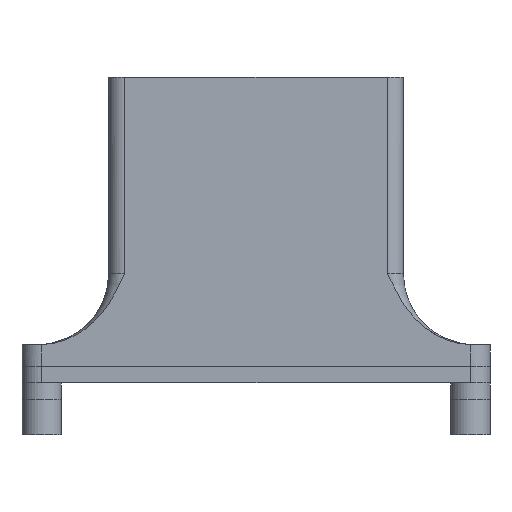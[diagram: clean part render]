
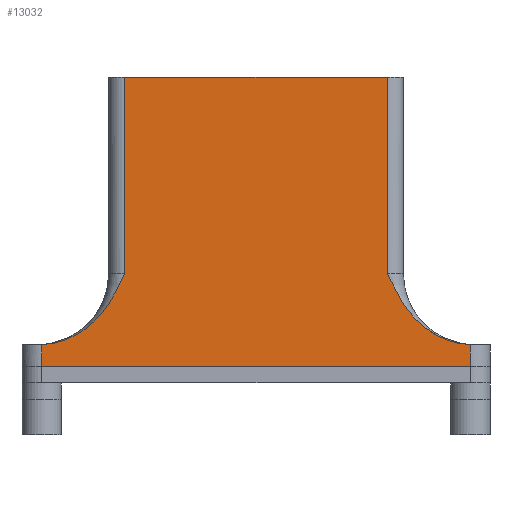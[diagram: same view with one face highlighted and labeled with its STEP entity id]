
A CAD part, front view. The second image highlights one B-rep face of the part: STEP entity #13032.
In plain terms, the highlighted planar face has unit normal (0, -1, 0).
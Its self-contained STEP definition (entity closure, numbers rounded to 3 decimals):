
#28=B_SPLINE_CURVE_WITH_KNOTS('',3,(#25805,#25806,#25807,#25808,#25809,
#25810,#25811,#25812,#25813,#25814,#25815,#25816,#25817,#25818,#25819,#25820),
 .UNSPECIFIED.,.F.,.F.,(4,2,2,2,2,2,2,4),(0.,0.579,0.869,
1.159,1.386,1.613,1.83,2.003),
 .UNSPECIFIED.);
#45=B_SPLINE_CURVE_WITH_KNOTS('',3,(#26018,#26019,#26020,#26021,#26022,
#26023,#26024,#26025,#26026,#26027,#26028,#26029,#26030,#26031,#26032,#26033),
 .UNSPECIFIED.,.F.,.F.,(4,2,2,2,2,2,2,4),(5.965,6.137,
6.355,6.582,6.809,7.099,7.389,
7.968),.UNSPECIFIED.);
#1900=PLANE('',#13497);
#2577=FACE_OUTER_BOUND('',#3306,.T.);
#3306=EDGE_LOOP('',(#12171,#12172,#12173,#12174,#12175,#12176,#12177,#12178));
#3993=LINE('',#25670,#4730);
#4007=LINE('',#25863,#4744);
#4019=LINE('',#26048,#4756);
#4033=LINE('',#26090,#4770);
#4048=LINE('',#26133,#4785);
#4058=LINE('',#26154,#4795);
#4730=VECTOR('',#14809,10.);
#4744=VECTOR('',#14877,10.);
#4756=VECTOR('',#14939,10.);
#4770=VECTOR('',#14985,10.);
#4785=VECTOR('',#15034,10.);
#4795=VECTOR('',#15060,10.);
#6170=VERTEX_POINT('',#25667);
#6171=VERTEX_POINT('',#25669);
#6193=VERTEX_POINT('',#25782);
#6198=VERTEX_POINT('',#25803);
#6229=VERTEX_POINT('',#26010);
#6230=VERTEX_POINT('',#26017);
#6242=VERTEX_POINT('',#26085);
#6254=VERTEX_POINT('',#26131);
#8105=EDGE_CURVE('',#6170,#6171,#3993,.T.);
#8139=EDGE_CURVE('',#6198,#6193,#28,.T.);
#8149=EDGE_CURVE('',#6171,#6198,#4007,.T.);
#8184=EDGE_CURVE('',#6230,#6229,#45,.F.);
#8189=EDGE_CURVE('',#6230,#6170,#4019,.T.);
#8211=EDGE_CURVE('',#6242,#6193,#4033,.T.);
#8233=EDGE_CURVE('',#6254,#6229,#4048,.T.);
#8244=EDGE_CURVE('',#6254,#6242,#4058,.T.);
#12171=ORIENTED_EDGE('',*,*,#8233,.F.);
#12172=ORIENTED_EDGE('',*,*,#8244,.T.);
#12173=ORIENTED_EDGE('',*,*,#8211,.T.);
#12174=ORIENTED_EDGE('',*,*,#8139,.F.);
#12175=ORIENTED_EDGE('',*,*,#8149,.F.);
#12176=ORIENTED_EDGE('',*,*,#8105,.F.);
#12177=ORIENTED_EDGE('',*,*,#8189,.F.);
#12178=ORIENTED_EDGE('',*,*,#8184,.T.);
#13032=ADVANCED_FACE('',(#2577),#1900,.T.);
#13497=AXIS2_PLACEMENT_3D('',#26153,#15058,#15059);
#14809=DIRECTION('',(1.,0.,0.));
#14877=DIRECTION('',(0.,0.,-1.));
#14939=DIRECTION('',(0.,0.,1.));
#14985=DIRECTION('',(0.,0.,1.));
#15034=DIRECTION('',(0.,0.,1.));
#15058=DIRECTION('center_axis',(0.,-1.,0.));
#15059=DIRECTION('ref_axis',(1.,0.,0.));
#15060=DIRECTION('',(1.,0.,0.));
#25667=CARTESIAN_POINT('',(-24.,-37.009,59.));
#25669=CARTESIAN_POINT('',(24.,-37.009,59.));
#25670=CARTESIAN_POINT('',(-24.,-37.009,59.));
#25782=CARTESIAN_POINT('',(39.25,-37.009,10.008));
#25803=CARTESIAN_POINT('',(24.,-37.009,23.));
#25805=CARTESIAN_POINT('Ctrl Pts',(24.,-37.009,23.));
#25806=CARTESIAN_POINT('Ctrl Pts',(24.836,-37.009,21.259));
#25807=CARTESIAN_POINT('Ctrl Pts',(25.76,-37.009,19.339));
#25808=CARTESIAN_POINT('Ctrl Pts',(27.483,-37.009,16.718));
#25809=CARTESIAN_POINT('Ctrl Pts',(28.112,-37.009,15.886));
#25810=CARTESIAN_POINT('Ctrl Pts',(29.474,-37.009,14.369));
#25811=CARTESIAN_POINT('Ctrl Pts',(30.205,-37.009,13.685));
#25812=CARTESIAN_POINT('Ctrl Pts',(31.563,-37.009,12.626));
#25813=CARTESIAN_POINT('Ctrl Pts',(32.252,-37.009,12.162));
#25814=CARTESIAN_POINT('Ctrl Pts',(33.701,-37.009,11.363));
#25815=CARTESIAN_POINT('Ctrl Pts',(34.46,-37.009,11.028));
#25816=CARTESIAN_POINT('Ctrl Pts',(35.86,-37.009,10.538));
#25817=CARTESIAN_POINT('Ctrl Pts',(36.63,-37.009,10.332));
#25818=CARTESIAN_POINT('Ctrl Pts',(38.031,-37.009,10.091));
#25819=CARTESIAN_POINT('Ctrl Pts',(38.656,-37.009,10.029));
#25820=CARTESIAN_POINT('Ctrl Pts',(39.25,-37.009,10.008));
#25863=CARTESIAN_POINT('',(24.,-37.009,6.));
#26010=CARTESIAN_POINT('',(-39.25,-37.009,10.008));
#26017=CARTESIAN_POINT('',(-24.,-37.009,23.));
#26018=CARTESIAN_POINT('Ctrl Pts',(-39.25,-37.009,10.008));
#26019=CARTESIAN_POINT('Ctrl Pts',(-38.656,-37.009,10.029));
#26020=CARTESIAN_POINT('Ctrl Pts',(-38.031,-37.009,10.091));
#26021=CARTESIAN_POINT('Ctrl Pts',(-36.63,-37.009,10.332));
#26022=CARTESIAN_POINT('Ctrl Pts',(-35.86,-37.009,10.538));
#26023=CARTESIAN_POINT('Ctrl Pts',(-34.46,-37.009,11.028));
#26024=CARTESIAN_POINT('Ctrl Pts',(-33.701,-37.009,11.363));
#26025=CARTESIAN_POINT('Ctrl Pts',(-32.252,-37.009,12.162));
#26026=CARTESIAN_POINT('Ctrl Pts',(-31.563,-37.009,12.626));
#26027=CARTESIAN_POINT('Ctrl Pts',(-30.205,-37.009,13.685));
#26028=CARTESIAN_POINT('Ctrl Pts',(-29.474,-37.009,14.369));
#26029=CARTESIAN_POINT('Ctrl Pts',(-28.112,-37.009,15.886));
#26030=CARTESIAN_POINT('Ctrl Pts',(-27.483,-37.009,16.718));
#26031=CARTESIAN_POINT('Ctrl Pts',(-25.76,-37.009,19.339));
#26032=CARTESIAN_POINT('Ctrl Pts',(-24.836,-37.009,21.259));
#26033=CARTESIAN_POINT('Ctrl Pts',(-24.,-37.009,23.));
#26048=CARTESIAN_POINT('',(-24.,-37.009,6.));
#26085=CARTESIAN_POINT('',(39.25,-37.009,6.));
#26090=CARTESIAN_POINT('',(39.25,-37.009,6.));
#26131=CARTESIAN_POINT('',(-39.25,-37.009,6.));
#26133=CARTESIAN_POINT('',(-39.25,-37.009,6.));
#26153=CARTESIAN_POINT('Origin',(-27.,-37.009,6.));
#26154=CARTESIAN_POINT('',(-42.85,-37.009,6.));
